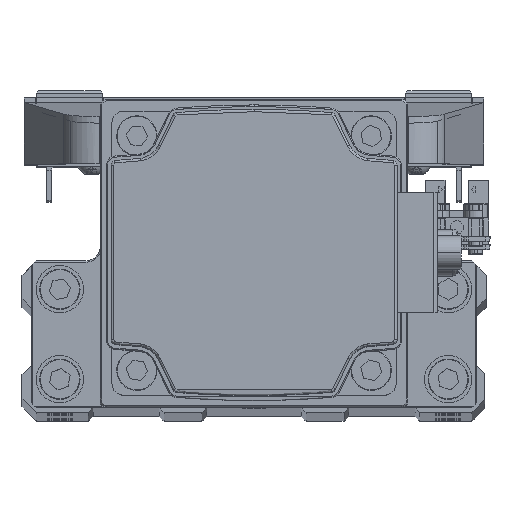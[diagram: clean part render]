
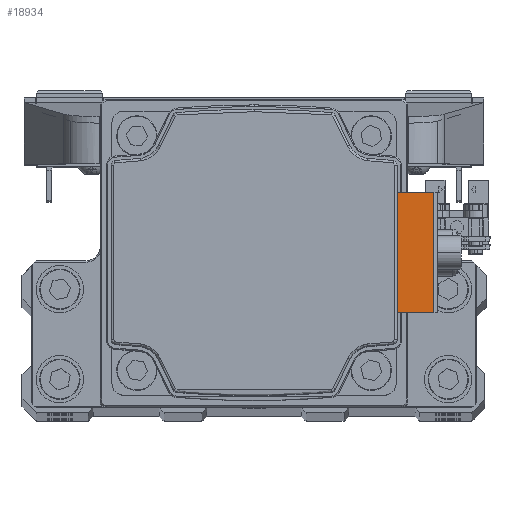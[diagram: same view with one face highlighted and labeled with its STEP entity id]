
A CAD part, top view. The second image highlights one B-rep face of the part: STEP entity #18934.
In plain terms, the highlighted planar face has unit normal (0, 0, 1) as drawn and (0, 0, -1) by its records, which use the part's own axes.
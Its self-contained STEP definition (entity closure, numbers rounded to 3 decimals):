
#185 = LINE ( 'NONE', #14905, #39574 ) ;
#411 = EDGE_CURVE ( 'NONE', #4455, #23787, #22485, .T. ) ;
#3700 = CARTESIAN_POINT ( 'NONE',  ( -12.75, 37.9, -88.696 ) ) ;
#3839 = DIRECTION ( 'NONE',  ( 0., 0., -1. ) ) ;
#4123 = DIRECTION ( 'NONE',  ( 1., 0., 0. ) ) ;
#4455 = VERTEX_POINT ( 'NONE', #26698 ) ;
#7452 = FACE_OUTER_BOUND ( 'NONE', #43569, .T. ) ;
#7459 = VECTOR ( 'NONE', #10430, 1000. ) ;
#9193 = LINE ( 'NONE', #23929, #31263 ) ;
#10430 = DIRECTION ( 'NONE',  ( 0., 1., 0. ) ) ;
#12509 = ORIENTED_EDGE ( 'NONE', *, *, #411, .F. ) ;
#12556 = ORIENTED_EDGE ( 'NONE', *, *, #24328, .F. ) ;
#14626 = ORIENTED_EDGE ( 'NONE', *, *, #23250, .T. ) ;
#14905 = CARTESIAN_POINT ( 'NONE',  ( 0., 37.9, -88.696 ) ) ;
#17460 = VECTOR ( 'NONE', #4123, 1000. ) ;
#18552 = ORIENTED_EDGE ( 'NONE', *, *, #47372, .T. ) ;
#18566 = DIRECTION ( 'NONE',  ( -1., 0., 0. ) ) ;
#18934 = ADVANCED_FACE ( 'NONE', ( #7452 ), #22193, .T. ) ;
#20309 = CARTESIAN_POINT ( 'NONE',  ( 12.75, 37.9, -88.696 ) ) ;
#20976 = CARTESIAN_POINT ( 'NONE',  ( 12.75, 30.2, -88.696 ) ) ;
#22193 = PLANE ( 'NONE',  #37760 ) ;
#22485 = LINE ( 'NONE', #37205, #17460 ) ;
#23250 = EDGE_CURVE ( 'NONE', #4455, #35911, #9193, .T. ) ;
#23262 = VERTEX_POINT ( 'NONE', #20309 ) ;
#23787 = VERTEX_POINT ( 'NONE', #20976 ) ;
#23929 = CARTESIAN_POINT ( 'NONE',  ( -12.75, 37.9, -88.696 ) ) ;
#24328 = EDGE_CURVE ( 'NONE', #23787, #23262, #28784, .T. ) ;
#26698 = CARTESIAN_POINT ( 'NONE',  ( -12.75, 30.2, -88.696 ) ) ;
#28784 = LINE ( 'NONE', #43567, #7459 ) ;
#29631 = DIRECTION ( 'NONE',  ( 1., 0., 0. ) ) ;
#31263 = VECTOR ( 'NONE', #38666, 1000. ) ;
#35911 = VERTEX_POINT ( 'NONE', #3700 ) ;
#36921 = CARTESIAN_POINT ( 'NONE',  ( 0., 37.9, -88.696 ) ) ;
#37205 = CARTESIAN_POINT ( 'NONE',  ( 18.438, 30.2, -88.696 ) ) ;
#37760 = AXIS2_PLACEMENT_3D ( 'NONE', #36921, #3839, #18566 ) ;
#38666 = DIRECTION ( 'NONE',  ( 0., 1., 0. ) ) ;
#39574 = VECTOR ( 'NONE', #29631, 1000. ) ;
#43567 = CARTESIAN_POINT ( 'NONE',  ( 12.75, 33.991, -88.696 ) ) ;
#43569 = EDGE_LOOP ( 'NONE', ( #14626, #18552, #12556, #12509 ) ) ;
#47372 = EDGE_CURVE ( 'NONE', #35911, #23262, #185, .T. ) ;
